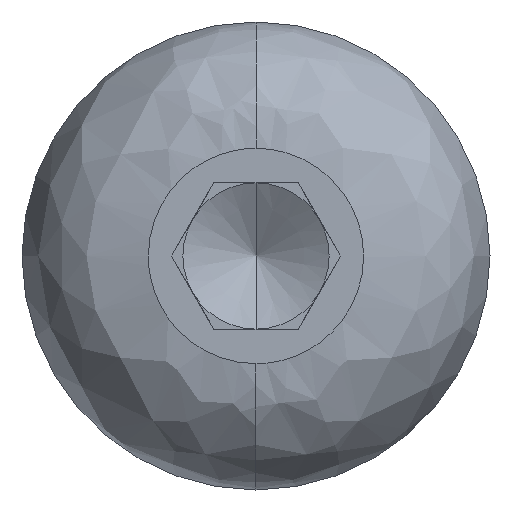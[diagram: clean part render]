
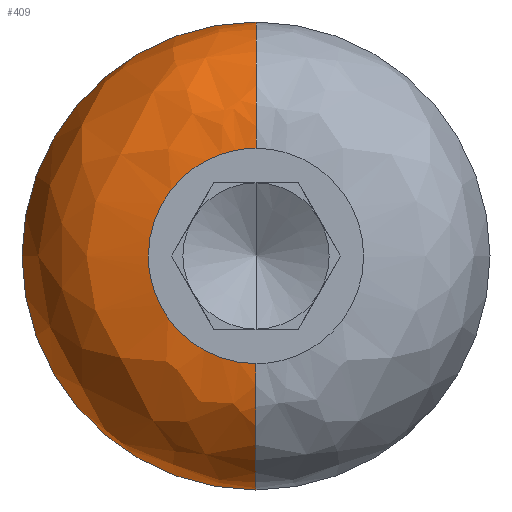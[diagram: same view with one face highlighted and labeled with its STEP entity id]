
A CAD part, left-side view. The second image highlights one B-rep face of the part: STEP entity #409.
In plain terms, the highlighted free-form (B-spline) face has degree [3, 3] with [4, 4] control points.
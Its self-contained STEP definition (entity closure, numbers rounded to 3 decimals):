
#7 = EDGE_LOOP ( 'NONE', ( #516, #446, #470, #626, #62 ) ) ;
#16 = CARTESIAN_POINT ( 'NONE',  ( 0.895, 8., -4. ) ) ;
#32 = CARTESIAN_POINT ( 'NONE',  ( 2.16, 0., -1.84 ) ) ;
#51 = CARTESIAN_POINT ( 'NONE',  ( 0., 0., -1.84 ) ) ;
#62 = ORIENTED_EDGE ( 'NONE', *, *, #713, .F. ) ;
#73 = CARTESIAN_POINT ( 'NONE',  ( 2.16, 0., 4. ) ) ;
#97 = DIRECTION ( 'NONE',  ( 0., 0., -1. ) ) ;
#103 = CARTESIAN_POINT ( 'NONE',  ( 0., 1.84, 0. ) ) ;
#104 = DIRECTION ( 'NONE',  ( 0., 1., 0. ) ) ;
#119 = CARTESIAN_POINT ( 'NONE',  ( 2.16, 0., 0. ) ) ;
#142 = CARTESIAN_POINT ( 'NONE',  ( 2.16, 8., -4. ) ) ;
#149 = CARTESIAN_POINT ( 'NONE',  ( 0., 0., -1.84 ) ) ;
#151 = CIRCLE ( 'NONE', #178, 4. ) ;
#175 = DIRECTION ( 'NONE',  ( 0., 0., 1. ) ) ;
#177 = CARTESIAN_POINT ( 'NONE',  ( 0., 1.84, 0. ) ) ;
#178 = AXIS2_PLACEMENT_3D ( 'NONE', #119, #528, #175 ) ;
#184 = CIRCLE ( 'NONE', #271, 2.16 ) ;
#195 = CARTESIAN_POINT ( 'NONE',  ( 0., 0., -1.84 ) ) ;
#221 =( BOUNDED_CURVE ( )  B_SPLINE_CURVE ( 3, ( #51, #468, #532, #177 ),
 .UNSPECIFIED., .F., .F. ) 
 B_SPLINE_CURVE_WITH_KNOTS ( ( 4, 4 ),
 ( 0., 1. ),
 .UNSPECIFIED. ) 
 CURVE ( )  GEOMETRIC_REPRESENTATION_ITEM ( )  RATIONAL_B_SPLINE_CURVE ( ( 1., 0.805, 0.805, 1. ) ) 
 REPRESENTATION_ITEM ( '' )  );
#223 = CARTESIAN_POINT ( 'NONE',  ( 0., 1.078, 1.84 ) ) ;
#233 = VERTEX_POINT ( 'NONE', #149 ) ;
#252 = CARTESIAN_POINT ( 'NONE',  ( 0., 6.211, 3.105 ) ) ;
#261 = CARTESIAN_POINT ( 'NONE',  ( 0., 0., 1.84 ) ) ;
#271 = AXIS2_PLACEMENT_3D ( 'NONE', #454, #104, #515 ) ;
#283 = EDGE_CURVE ( 'NONE', #233, #706, #441, .T. ) ;
#285 = VERTEX_POINT ( 'NONE', #758 ) ;
#310 = CARTESIAN_POINT ( 'NONE',  ( 0., 0., -3.105 ) ) ;
#367 = CARTESIAN_POINT ( 'NONE',  ( 0.895, 8., 4. ) ) ;
#409 = ADVANCED_FACE ( 'NONE', ( #643 ), #644, .T. ) ;
#424 = CARTESIAN_POINT ( 'NONE',  ( 0.895, 0., -4. ) ) ;
#434 = VERTEX_POINT ( 'NONE', #683 ) ;
#441 = CIRCLE ( 'NONE', #708, 2.16 ) ;
#445 = DIRECTION ( 'NONE',  ( 0., -1., 0. ) ) ;
#446 = ORIENTED_EDGE ( 'NONE', *, *, #753, .T. ) ;
#451 = CARTESIAN_POINT ( 'NONE',  ( 0., 1.84, 1.078 ) ) ;
#454 = CARTESIAN_POINT ( 'NONE',  ( 2.16, 0., 1.84 ) ) ;
#461 = VERTEX_POINT ( 'NONE', #261 ) ;
#468 = CARTESIAN_POINT ( 'NONE',  ( 0., 1.078, -1.84 ) ) ;
#470 = ORIENTED_EDGE ( 'NONE', *, *, #631, .T. ) ;
#488 =( BOUNDED_CURVE ( )  B_SPLINE_CURVE ( 3, ( #103, #451, #223, #648 ),
 .UNSPECIFIED., .F., .F. ) 
 B_SPLINE_CURVE_WITH_KNOTS ( ( 4, 4 ),
 ( 0., 1. ),
 .UNSPECIFIED. ) 
 CURVE ( )  GEOMETRIC_REPRESENTATION_ITEM ( )  RATIONAL_B_SPLINE_CURVE ( ( 1., 0.805, 0.805, 1. ) ) 
 REPRESENTATION_ITEM ( '' )  );
#489 = CARTESIAN_POINT ( 'NONE',  ( 2.16, 8., 4. ) ) ;
#515 = DIRECTION ( 'NONE',  ( 0., 0., 1. ) ) ;
#516 = ORIENTED_EDGE ( 'NONE', *, *, #283, .F. ) ;
#521 = CARTESIAN_POINT ( 'NONE',  ( 0., 0., 1.84 ) ) ;
#528 = DIRECTION ( 'NONE',  ( 1., 0., 0. ) ) ;
#532 = CARTESIAN_POINT ( 'NONE',  ( 0., 1.84, -1.078 ) ) ;
#548 = CARTESIAN_POINT ( 'NONE',  ( 0., 3.68, -1.84 ) ) ;
#554 = CARTESIAN_POINT ( 'NONE',  ( 2.16, 0., -4. ) ) ;
#608 = EDGE_CURVE ( 'NONE', #461, #285, #184, .T. ) ;
#613 = CARTESIAN_POINT ( 'NONE',  ( 0., 0., 3.105 ) ) ;
#626 = ORIENTED_EDGE ( 'NONE', *, *, #608, .T. ) ;
#631 = EDGE_CURVE ( 'NONE', #434, #461, #488, .T. ) ;
#643 = FACE_OUTER_BOUND ( 'NONE', #7, .T. ) ;
#644 =( BOUNDED_SURFACE ( )  B_SPLINE_SURFACE ( 3, 3, ( 
 ( #521, #770, #548, #195 ),
 ( #613, #252, #676, #310 ),
 ( #736, #367, #16, #424 ),
 ( #73, #489, #142, #554 ) ),
 .UNSPECIFIED., .F., .F., .F. ) 
 B_SPLINE_SURFACE_WITH_KNOTS ( ( 4, 4 ),
 ( 4, 4 ),
 ( 0., 1. ),
 ( 0., 1. ),
 .UNSPECIFIED. ) 
 GEOMETRIC_REPRESENTATION_ITEM ( )  RATIONAL_B_SPLINE_SURFACE ( (
 ( 1., 0.333, 0.333, 1.),
 ( 0.805, 0.268, 0.268, 0.805),
 ( 0.805, 0.268, 0.268, 0.805),
 ( 1., 0.333, 0.333, 1.) ) ) 
 REPRESENTATION_ITEM ( '' )  SURFACE ( )  );
#648 = CARTESIAN_POINT ( 'NONE',  ( 0., 0., 1.84 ) ) ;
#654 = CARTESIAN_POINT ( 'NONE',  ( 2.16, 0., -4. ) ) ;
#676 = CARTESIAN_POINT ( 'NONE',  ( 0., 6.211, -3.105 ) ) ;
#683 = CARTESIAN_POINT ( 'NONE',  ( 0., 1.84, 0. ) ) ;
#706 = VERTEX_POINT ( 'NONE', #654 ) ;
#708 = AXIS2_PLACEMENT_3D ( 'NONE', #32, #445, #97 ) ;
#713 = EDGE_CURVE ( 'NONE', #706, #285, #151, .T. ) ;
#736 = CARTESIAN_POINT ( 'NONE',  ( 0.895, 0., 4. ) ) ;
#753 = EDGE_CURVE ( 'NONE', #233, #434, #221, .T. ) ;
#758 = CARTESIAN_POINT ( 'NONE',  ( 2.16, 0., 4. ) ) ;
#770 = CARTESIAN_POINT ( 'NONE',  ( 0., 3.68, 1.84 ) ) ;
